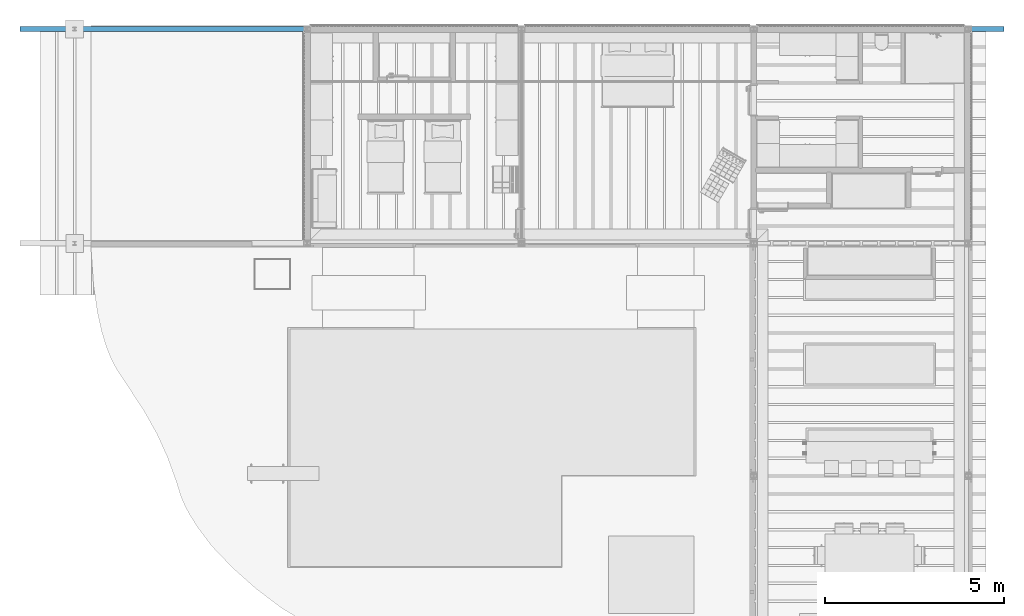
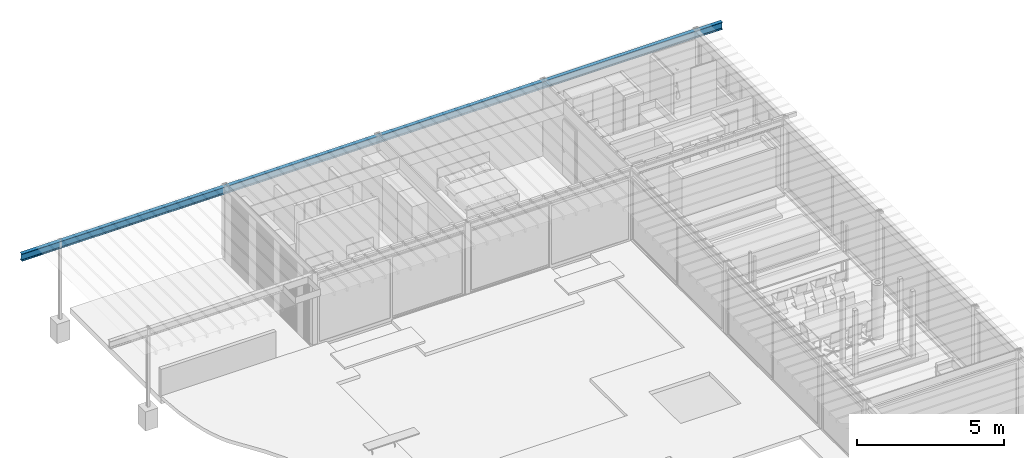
# One storey, part 11 of 28: 1 member.
"""IFC4X3_ADD2 building model written with IfcOpenShell, lengths in metres."""

from ifc_helpers import new_model, si_unit, direction, frame, frame_2d, origin_with_axes, place, context, subcontext, project, spatial, i_section, extrude, material, element, save


model = new_model("IFC4X3_ADD2")

# Units and contexts
model_context = context("Model", 3, precision=1e-05, world=origin_with_axes(), true_north=direction((0.0, 1.0)))
body_context = subcontext(model_context, "Body", "Model", "MODEL_VIEW")
ifc_project = project(units=[si_unit("LENGTHUNIT", "METRE"), si_unit("AREAUNIT", "SQUARE_METRE"), si_unit("VOLUMEUNIT", "CUBIC_METRE"), si_unit("PLANEANGLEUNIT", "RADIAN"), si_unit("TIMEUNIT", "SECOND"), si_unit("MASSUNIT", "GRAM")], contexts=[model_context])

# Site, building, storey
site_placement = place(None, origin_with_axes())
site = spatial("IfcSite", under=ifc_project, at=site_placement, Name="Site", CompositionType="ELEMENT")
building_placement = place(site_placement, origin_with_axes())
building = spatial("IfcBuilding", under=site, at=building_placement, Name="Default Building")
storey_placement = place(building_placement, frame((0.0, 0.0, -0.08), z_axis=(0.0, 0.0, 1.0), x_axis=(1.0, 0.0, 0.0)))
storey = spatial("IfcBuildingStorey", under=building, at=storey_placement, Name="Gruendung", Elevation=-0.08)

# Member
ifc_material = material(Name="Default")
member_placement = place(storey_placement, frame((26.0, 22.0, 2.98), z_axis=(-1.0, 0.0, 0.0), x_axis=(0.0, 1.0, 0.0)))
element("IfcMember", 1, at=member_placement, inside=storey, material=ifc_material, Name="Wide Flange", ObjectType="DIN - IPE 300", context=body_context, shape_type="SweptSolid", body=[
    extrude(i_section(OverallWidth=0.15, OverallDepth=0.3, WebThickness=0.007, FlangeThickness=0.011, FilletRadius=0.015, at=frame_2d((0.0, -0.15), x_axis=(1.0, 0.0))), frame((0.0, 0.3, 0.0), z_axis=(0.0, 0.0, 1.0), x_axis=(1.0, 0.0, 0.0)), (0.0, 0.0, 1.0), 27.53),
])

save(model, "model.ifc")
